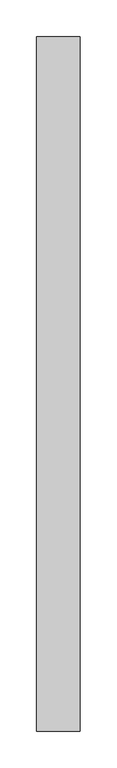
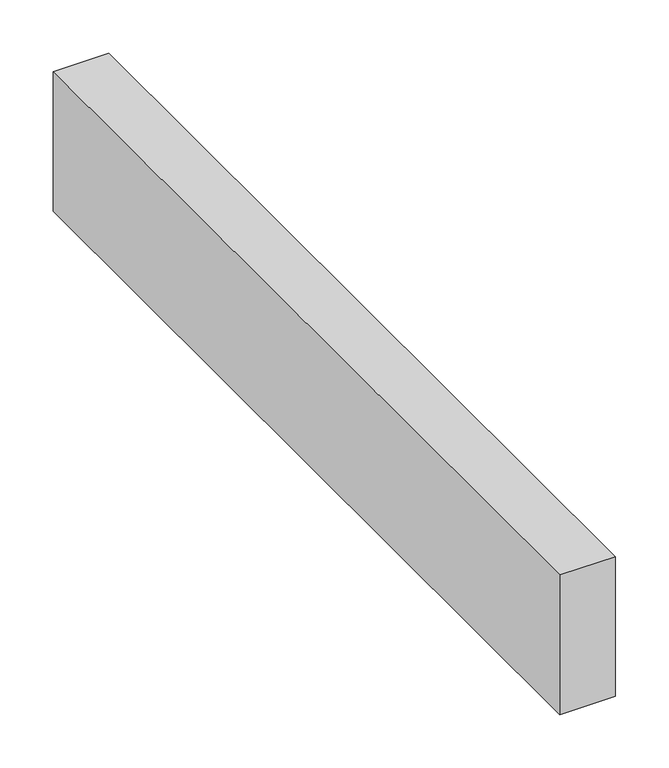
"""IFC4 building model written with IfcOpenShell, lengths in millimetres: proxy geometry, Modelos genéricos 70 : Modelos genéricos 9."""

from ifc_helpers import new_model, si_unit, frame, origin, place, context, project, spatial, polyline, outline, extrude, source, transform, mapped, element, save


def generic_models_01970b12(model_context):
    return source(origin(), model_context, "Body", "SweptSolid", [
        extrude(outline(polyline([(-1606.5527533, 2418.6238165), (-1606.5527533, 1468.6238165), (-1666.5527533, 1468.6238165), (-1666.5527533, 2418.6238165), (-1606.5527533, 2418.6238165)])), frame((0.0, 0.0, 3000.0), z_axis=(0.0, 0.0, 1.0), x_axis=(1.0, 0.0, 0.0)), (0.0, 0.0, 1.0), 160.0),
    ])


if __name__ == "__main__":
    model = new_model("IFC4")
    model_context = context("Model", 3, world=origin())
    ifc_project = project(units=[si_unit("LENGTHUNIT", "METRE", prefix="MILLI")], contexts=[model_context])
    site = spatial("IfcSite", under=ifc_project)
    building = spatial("IfcBuilding", under=site)
    placement = place(None, origin())
    generic_models_shape = generic_models_01970b12(model_context)
    element("IfcBuildingElementProxy", 1, Name="Modelos genéricos 70 : Modelos genéricos 9", ObjectType="Modelos genéricos 70 : Modelos genéricos 9", at=placement, inside=building, context=model_context, shape_type="MappedRepresentation", body=[
        mapped(generic_models_shape, transform((0.0, 0.0, 0.0), x_axis=(1.0, 0.0, 0.0), y_axis=(0.0, 1.0, 0.0), z_axis=(0.0, 0.0, 1.0))),
    ])
    save(model, "model.ifc")
